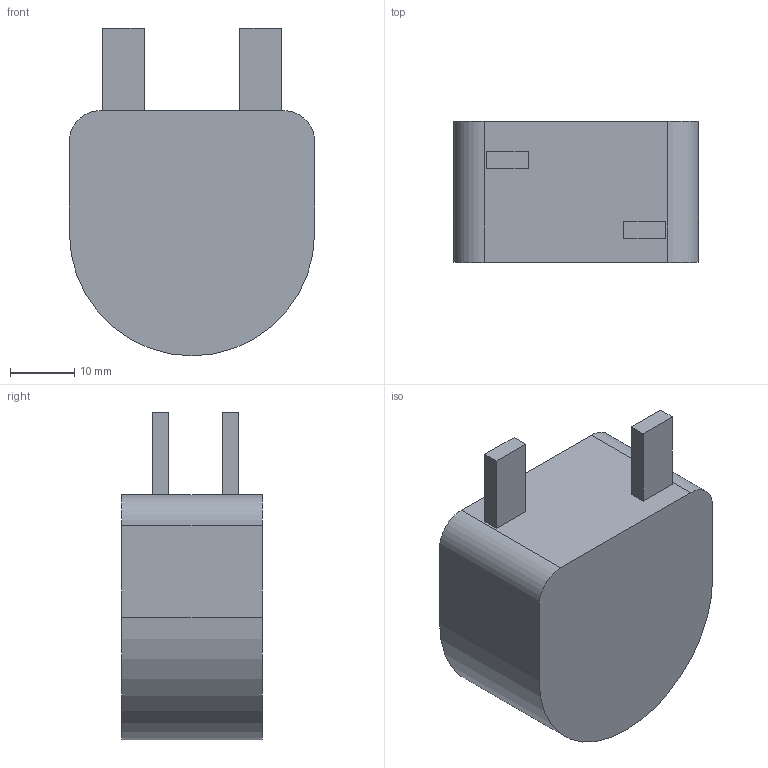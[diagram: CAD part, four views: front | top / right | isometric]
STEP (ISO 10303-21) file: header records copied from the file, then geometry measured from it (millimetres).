
FILE_DESCRIPTION (( 'STEP AP214' ), '1' );
FILE_NAME ('IHXL1500VZEBR82M31.STEP', '2025-08-07T20:47:22', ( '' ), ( '' ), 'SwSTEP 2.0', 'SolidWorks 2024', '' );
FILE_SCHEMA (( 'AUTOMOTIVE_DESIGN' ));
Length unit declared in the file: inch
Products named in the file (1): IHXL1500VZEBR82M31
Bounding box: 38.1 x 21.89 x 50.93 mm (x, y, z)
Volume: 28586.4 mm3; surface area: 5924.1 mm2
Topology: 1 solids, 1 shells, 19 faces, 45 edges, 30 vertices
Faces by surface type: plane 15, cylinder 4
Entity records: 574 total; most frequent: CARTESIAN_POINT 95, DIRECTION 93, ORIENTED_EDGE 90, EDGE_CURVE 45, VECTOR 37, LINE 37, VERTEX_POINT 30, AXIS2_PLACEMENT_3D 28
